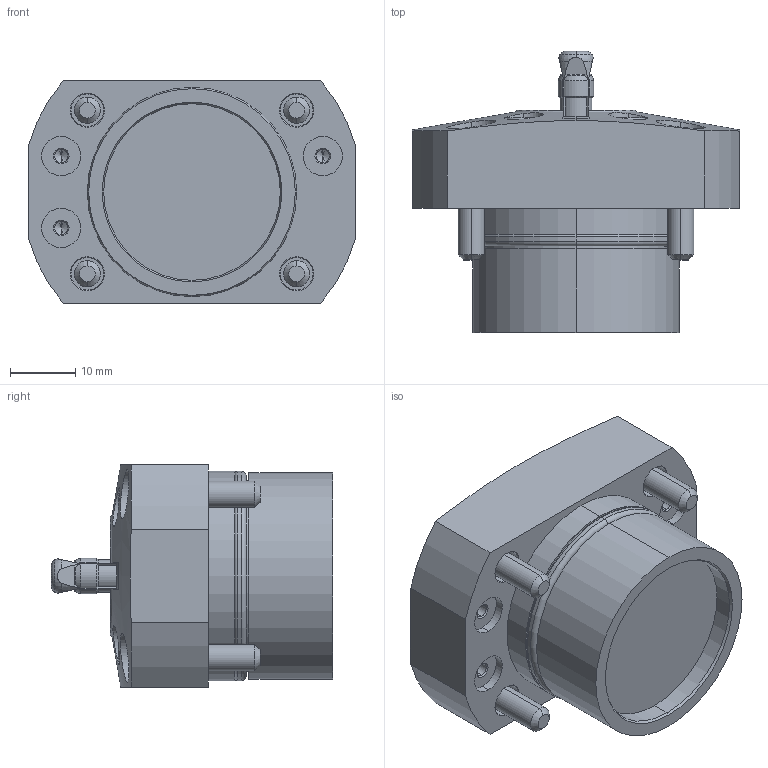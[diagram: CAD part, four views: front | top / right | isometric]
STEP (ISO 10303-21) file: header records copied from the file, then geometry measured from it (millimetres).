
FILE_DESCRIPTION (( 'STEP AP203' ), '1' );
FILE_NAME ('SFH1060_N.STEP', '2010-11-01T23:23:50', ( ' ' ), ( ' ' ), 'SwSTEP 2.0', 'SolidWorks 2010', '' );
FILE_SCHEMA (( 'CONFIG_CONTROL_DESIGN' ));
Length unit declared in the file: millimetre
Products named in the file (7): 6妏寠晅无倌_M4_16; SFH1060_N; φ6_ｽﾘｰﾌﾞ-N; SFH1060-N_套菁轤礁诎蔬晅; SFH1_钾堇轤O剌皋晅; 冇6_郫霓; 6妏寠晅无倌_M3_10
Assembly tree (12 placements, depth 2):
  SFH1060_N
    SFH1_钾堇轤O剌皋晅
    冇6_郫霓
    6妏寠晅无倌_M3_10  x4
    6妏寠晅无倌_M4_16  x4
    SFH1060-N_套菁轤礁诎蔬晅
    φ6_ｽﾘｰﾌﾞ-N
Bounding box: 50 x 43 x 34 mm (x, y, z)
Volume: 34513.6 mm3; surface area: 15039.7 mm2
Topology: 16 solids, 16 shells, 478 faces, 971 edges, 536 vertices
Faces by surface type: plane 187, cone 156, cylinder 118, torus 17
Entity records: 9587 total; most frequent: CARTESIAN_POINT 2244, DIRECTION 1434, ORIENTED_EDGE 1270, EDGE_CURVE 635, AXIS2_PLACEMENT_3D 598, VERTEX_POINT 386, EDGE_LOOP 333, ADVANCED_FACE 292
